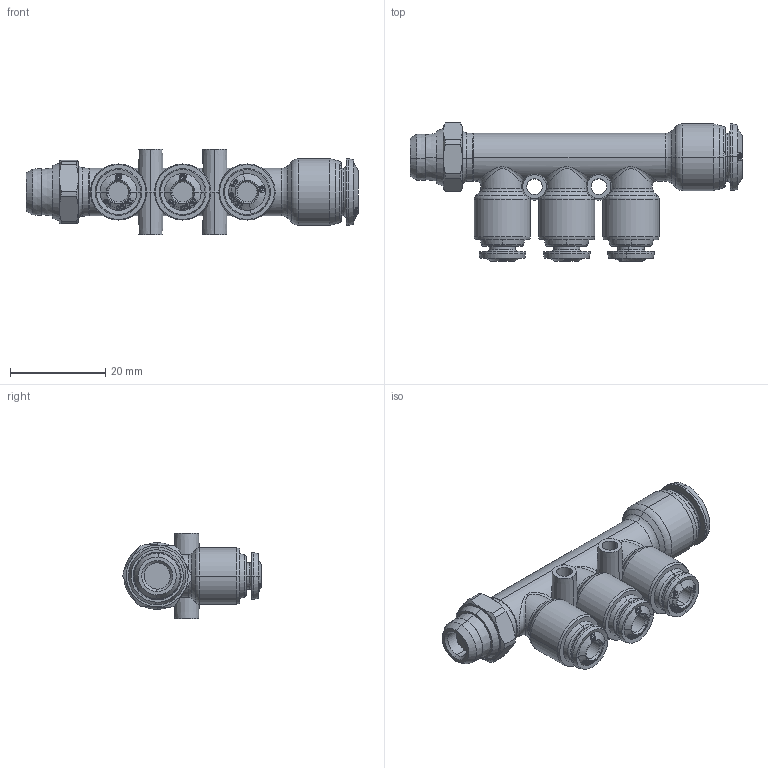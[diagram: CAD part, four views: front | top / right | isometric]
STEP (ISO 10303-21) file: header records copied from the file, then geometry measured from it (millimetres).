
FILE_DESCRIPTION (( 'STEP AP214' ), '1' );
FILE_NAME ('5536000003.step', '2012-10-02T17:49:11', ( '' ), ( '' ), 'SwSTEP 2.0', 'SolidWorks 2012', '' );
FILE_SCHEMA (( 'AUTOMOTIVE_DESIGN' ));
Length unit declared in the file: millimetre
Products named in the file (1): 5536000003
Bounding box: 69.7 x 29 x 18 mm (x, y, z)
Volume: 10966.9 mm3; surface area: 6263.4 mm2
Topology: 1 solids, 2 shells, 769 faces, 1948 edges, 1262 vertices
Faces by surface type: bspline 463, cone 162, cylinder 59, torus 44, plane 41
Entity records: 51317 total; most frequent: CARTESIAN_POINT 28362, ORIENTED_EDGE 3896, EDGE_CURVE 1948, B_SPLINE_CURVE_WITH_KNOTS 1484, DIRECTION 1389, VERTEX_POINT 1262, EDGE_LOOP 854, UNCERTAINTY_MEASURE_WITH_UNIT 772
